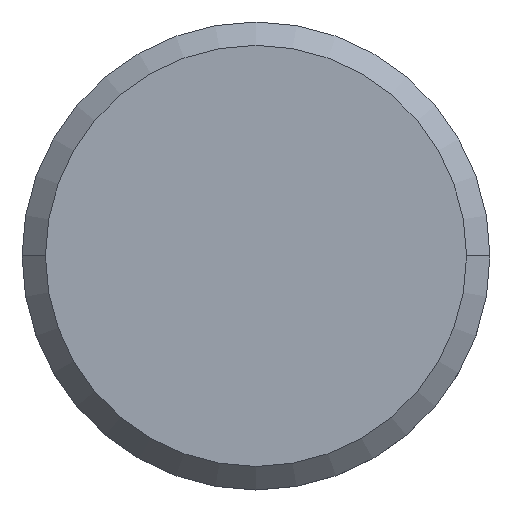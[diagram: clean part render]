
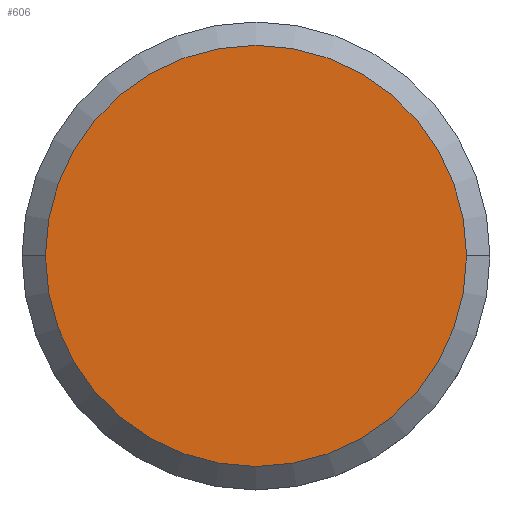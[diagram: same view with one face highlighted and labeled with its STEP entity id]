
A CAD part, top view. The second image highlights one B-rep face of the part: STEP entity #606.
In plain terms, the highlighted planar face has unit normal (0, 0, 1).
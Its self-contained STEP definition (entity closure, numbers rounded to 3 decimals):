
#1 = CIRCLE ( 'NONE', #155, 9. ) ;
#27 = DIRECTION ( 'NONE',  ( -1., 0., 0. ) ) ;
#34 = DIRECTION ( 'NONE',  ( -1., 0., 0. ) ) ;
#47 = EDGE_LOOP ( 'NONE', ( #270, #385 ) ) ;
#53 = CARTESIAN_POINT ( 'NONE',  ( -9., 0., 0. ) ) ;
#155 = AXIS2_PLACEMENT_3D ( 'NONE', #365, #798, #27 ) ;
#270 = ORIENTED_EDGE ( 'NONE', *, *, #402, .T. ) ;
#272 = AXIS2_PLACEMENT_3D ( 'NONE', #573, #721, #287 ) ;
#287 = DIRECTION ( 'NONE',  ( -1., 0., 0. ) ) ;
#365 = CARTESIAN_POINT ( 'NONE',  ( 0., 0., 0. ) ) ;
#385 = ORIENTED_EDGE ( 'NONE', *, *, #887, .T. ) ;
#402 = EDGE_CURVE ( 'NONE', #850, #666, #855, .T. ) ;
#472 = DIRECTION ( 'NONE',  ( 0., 0., 1. ) ) ;
#491 = FACE_OUTER_BOUND ( 'NONE', #47, .T. ) ;
#492 = AXIS2_PLACEMENT_3D ( 'NONE', #916, #472, #34 ) ;
#573 = CARTESIAN_POINT ( 'NONE',  ( 0., 0., 0. ) ) ;
#606 = ADVANCED_FACE ( 'NONE', ( #491 ), #944, .F. ) ;
#666 = VERTEX_POINT ( 'NONE', #823 ) ;
#721 = DIRECTION ( 'NONE',  ( 0., 0., -1. ) ) ;
#798 = DIRECTION ( 'NONE',  ( 0., 0., 1. ) ) ;
#823 = CARTESIAN_POINT ( 'NONE',  ( 9., 0., 0. ) ) ;
#850 = VERTEX_POINT ( 'NONE', #53 ) ;
#855 = CIRCLE ( 'NONE', #492, 9. ) ;
#887 = EDGE_CURVE ( 'NONE', #666, #850, #1, .T. ) ;
#916 = CARTESIAN_POINT ( 'NONE',  ( 0., 0., 0. ) ) ;
#944 = PLANE ( 'NONE',  #272 ) ;
